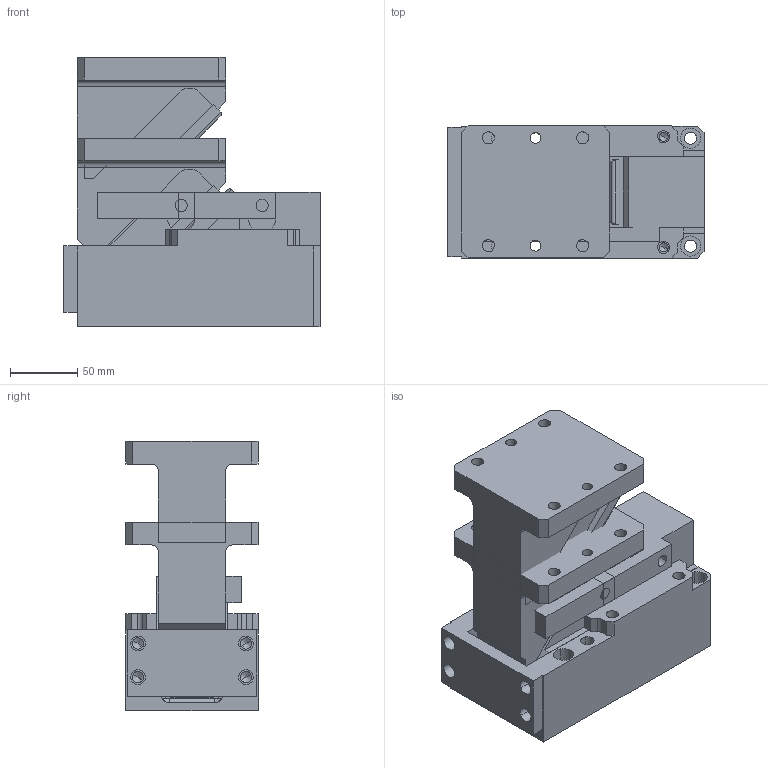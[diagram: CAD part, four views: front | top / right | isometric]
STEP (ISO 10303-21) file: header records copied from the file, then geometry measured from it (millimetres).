
FILE_DESCRIPTION(('CATIA V5 STEP','CAx-IF Rec.Pracs.--- Model Styling and Organization---1.4--- 2014-01-23','CAx-IF Rec.Pracs.---3D Tessellated Data Validation Properties---0.5---2014-09-14'),'2;1');
FILE_NAME('H:\_COMPRESS_2\2016.14.00.052.060.1.2__CM.stp','2020-11-18T12:45:29+00:00',('${USER}'),('AUDI AG, ${GROUP}'),'CATIA Version 5-6 Release 2018 SP3 HF27','CATIA V5 STEP AP242','none');
FILE_SCHEMA(('AP242_MANAGED_MODEL_BASED_3D_ENGINEERING_MIM_LF {1 0 10303 442 1 1 4}'));
Length unit declared in the file: millimetre
Products named in the file (1): 2016.14.00.052.060.1.2__CM
Bounding box: 190 x 98 x 200 mm (x, y, z)
Volume: 2515551.3 mm3; surface area: 335459.2 mm2
Topology: 6 solids, 6 shells, 556 faces, 1397 edges, 884 vertices
Faces by surface type: plane 275, cylinder 219, cone 40, torus 16, sphere 4, bspline 2
Entity records: 15811 total; most frequent: CARTESIAN_POINT 3210, ORIENTED_EDGE 2732, DIRECTION 2154, EDGE_CURVE 1366, VERTEX_POINT 880, VECTOR 876, LINE 876, AXIS2_PLACEMENT_3D 860
